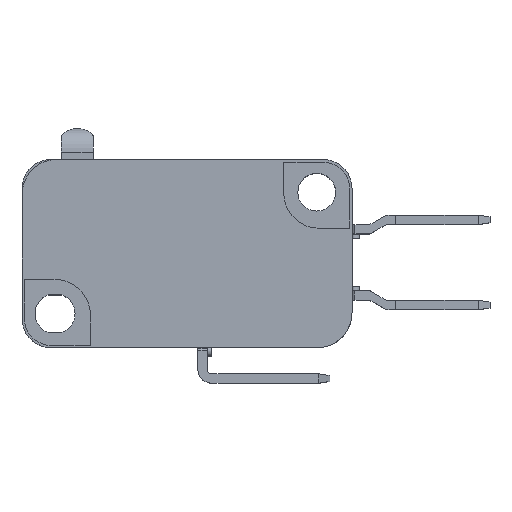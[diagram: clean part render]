
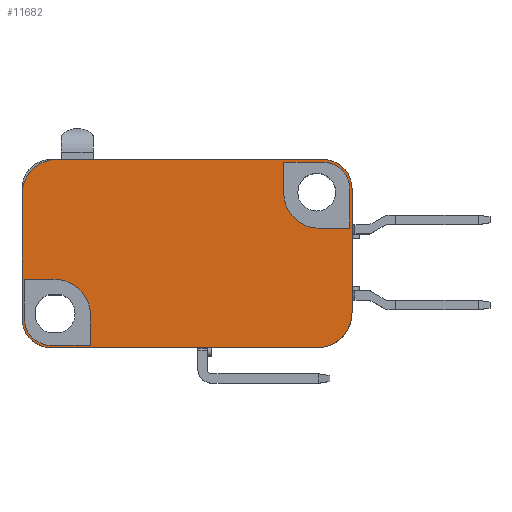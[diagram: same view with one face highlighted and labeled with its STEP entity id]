
A CAD part, top view. The second image highlights one B-rep face of the part: STEP entity #11682.
In plain terms, the highlighted planar face has unit normal (0, 0, 1).
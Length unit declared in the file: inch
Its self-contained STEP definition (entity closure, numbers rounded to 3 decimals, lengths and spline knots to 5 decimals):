
#764=DIRECTION('',(-1.,0.,0.));
#765=VECTOR('',#764,22.5);
#766=CARTESIAN_POINT('',(25.5,15.9,2.8));
#767=LINE('',#766,#765);
#2048=DIRECTION('',(0.,1.,0.));
#2049=VECTOR('',#2048,10.5);
#2050=CARTESIAN_POINT('',(28.,2.9,2.8));
#2051=LINE('',#2050,#2049);
#2409=DIRECTION('',(1.,0.,0.));
#2410=VECTOR('',#2409,22.5);
#2411=CARTESIAN_POINT('',(2.5,-0.1,2.8));
#2412=LINE('',#2411,#2410);
#3426=DIRECTION('',(0.,-1.,0.));
#3427=VECTOR('',#3426,10.5);
#3428=CARTESIAN_POINT('',(0.,12.9,2.8));
#3429=LINE('',#3428,#3427);
#3438=CARTESIAN_POINT('',(3.,12.9,2.8));
#3439=DIRECTION('',(0.,0.,-1.));
#3440=DIRECTION('',(-1.,0.,0.));
#3441=AXIS2_PLACEMENT_3D('',#3438,#3439,#3440);
#3443=CARTESIAN_POINT('',(25.5,13.4,2.8));
#3444=DIRECTION('',(0.,0.,-1.));
#3445=DIRECTION('',(0.,1.,0.));
#3446=AXIS2_PLACEMENT_3D('',#3443,#3444,#3445);
#3448=CARTESIAN_POINT('',(25.,2.9,2.8));
#3449=DIRECTION('',(0.,0.,-1.));
#3450=DIRECTION('',(1.,0.,0.));
#3451=AXIS2_PLACEMENT_3D('',#3448,#3449,#3450);
#3453=CARTESIAN_POINT('',(2.5,2.4,2.8));
#3454=DIRECTION('',(0.,0.,-1.));
#3455=DIRECTION('',(0.,-1.,0.));
#3456=AXIS2_PLACEMENT_3D('',#3453,#3454,#3455);
#3458=CARTESIAN_POINT('',(2.8,2.7,2.8));
#3459=DIRECTION('',(0.,0.,1.));
#3460=DIRECTION('',(1.,0.,0.));
#3461=AXIS2_PLACEMENT_3D('',#3458,#3459,#3460);
#3463=CARTESIAN_POINT('',(2.5,2.4,2.8));
#3464=DIRECTION('',(0.,0.,1.));
#3465=DIRECTION('',(-1.,0.,0.));
#3466=AXIS2_PLACEMENT_3D('',#3463,#3464,#3465);
#3468=CARTESIAN_POINT('',(25.2,13.05,2.8));
#3469=DIRECTION('',(0.,0.,1.));
#3470=DIRECTION('',(-1.,0.,0.));
#3471=AXIS2_PLACEMENT_3D('',#3468,#3469,#3470);
#3473=CARTESIAN_POINT('',(25.5,13.35,2.8));
#3474=DIRECTION('',(0.,0.,1.));
#3475=DIRECTION('',(1.,0.,0.));
#3476=AXIS2_PLACEMENT_3D('',#3473,#3474,#3475);
#3486=DIRECTION('',(0.,-1.,0.));
#3487=VECTOR('',#3486,2.6);
#3488=CARTESIAN_POINT('',(5.8,2.7,2.8));
#3489=LINE('',#3488,#3487);
#3519=DIRECTION('',(-1.,0.,0.));
#3520=VECTOR('',#3519,3.3);
#3521=CARTESIAN_POINT('',(5.8,0.1,2.8));
#3522=LINE('',#3521,#3520);
#3535=DIRECTION('',(0.,1.,0.));
#3536=VECTOR('',#3535,3.3);
#3537=CARTESIAN_POINT('',(0.2,2.4,2.8));
#3538=LINE('',#3537,#3536);
#3559=DIRECTION('',(1.,0.,0.));
#3560=VECTOR('',#3559,2.6);
#3561=CARTESIAN_POINT('',(0.2,5.7,2.8));
#3562=LINE('',#3561,#3560);
#3757=DIRECTION('',(0.,1.,0.));
#3758=VECTOR('',#3757,2.6);
#3759=CARTESIAN_POINT('',(22.2,13.05,2.8));
#3760=LINE('',#3759,#3758);
#3785=DIRECTION('',(1.,0.,0.));
#3786=VECTOR('',#3785,3.3);
#3787=CARTESIAN_POINT('',(22.2,15.65,2.8));
#3788=LINE('',#3787,#3786);
#3801=DIRECTION('',(0.,-1.,0.));
#3802=VECTOR('',#3801,3.3);
#3803=CARTESIAN_POINT('',(27.8,13.35,2.8));
#3804=LINE('',#3803,#3802);
#3825=DIRECTION('',(-1.,0.,0.));
#3826=VECTOR('',#3825,2.6);
#3827=CARTESIAN_POINT('',(27.8,10.05,2.8));
#3828=LINE('',#3827,#3826);
#5862=CARTESIAN_POINT('',(0.,12.9,2.8));
#5863=CARTESIAN_POINT('',(3.,15.9,2.8));
#5864=VERTEX_POINT('',#5862);
#5865=VERTEX_POINT('',#5863);
#5866=CARTESIAN_POINT('',(25.5,15.9,2.8));
#5867=VERTEX_POINT('',#5866);
#5868=CARTESIAN_POINT('',(28.,13.4,2.8));
#5869=VERTEX_POINT('',#5868);
#5870=CARTESIAN_POINT('',(28.,2.9,2.8));
#5871=VERTEX_POINT('',#5870);
#5872=CARTESIAN_POINT('',(25.,-0.1,2.8));
#5873=VERTEX_POINT('',#5872);
#5874=CARTESIAN_POINT('',(2.5,-0.1,2.8));
#5875=VERTEX_POINT('',#5874);
#5876=CARTESIAN_POINT('',(0.,2.4,2.8));
#5877=VERTEX_POINT('',#5876);
#5878=CARTESIAN_POINT('',(5.8,2.7,2.8));
#5879=CARTESIAN_POINT('',(5.8,0.1,2.8));
#5880=VERTEX_POINT('',#5878);
#5881=VERTEX_POINT('',#5879);
#5882=CARTESIAN_POINT('',(0.2,5.7,2.8));
#5883=CARTESIAN_POINT('',(2.8,5.7,2.8));
#5884=VERTEX_POINT('',#5882);
#5885=VERTEX_POINT('',#5883);
#5886=CARTESIAN_POINT('',(0.2,2.4,2.8));
#5887=VERTEX_POINT('',#5886);
#5888=CARTESIAN_POINT('',(2.5,0.1,2.8));
#5889=VERTEX_POINT('',#5888);
#5890=CARTESIAN_POINT('',(22.2,13.05,2.8));
#5891=CARTESIAN_POINT('',(22.2,15.65,2.8));
#5892=VERTEX_POINT('',#5890);
#5893=VERTEX_POINT('',#5891);
#5894=CARTESIAN_POINT('',(27.8,10.05,2.8));
#5895=CARTESIAN_POINT('',(25.2,10.05,2.8));
#5896=VERTEX_POINT('',#5894);
#5897=VERTEX_POINT('',#5895);
#5898=CARTESIAN_POINT('',(27.8,13.35,2.8));
#5899=VERTEX_POINT('',#5898);
#5900=CARTESIAN_POINT('',(25.5,15.65,2.8));
#5901=VERTEX_POINT('',#5900);
#11638=CARTESIAN_POINT('',(14.,7.9,2.8));
#11639=DIRECTION('',(0.,0.,1.));
#11640=DIRECTION('',(-1.,0.,0.));
#11641=AXIS2_PLACEMENT_3D('',#11638,#11639,#11640);
#11642=PLANE('',#11641);
#11643=ORIENTED_EDGE('',*,*,#8162,.T.);
#11644=ORIENTED_EDGE('',*,*,#8179,.F.);
#11646=ORIENTED_EDGE('',*,*,#11645,.T.);
#11647=ORIENTED_EDGE('',*,*,#9800,.F.);
#11648=ORIENTED_EDGE('',*,*,#9841,.T.);
#11649=ORIENTED_EDGE('',*,*,#10268,.F.);
#11650=ORIENTED_EDGE('',*,*,#11609,.T.);
#11651=ORIENTED_EDGE('',*,*,#11623,.F.);
#11652=EDGE_LOOP('',(#11643,#11644,#11646,#11647,#11648,#11649,#11650,#11651));
#11653=FACE_OUTER_BOUND('',#11652,.F.);
#11655=ORIENTED_EDGE('',*,*,#11654,.F.);
#11657=ORIENTED_EDGE('',*,*,#11656,.T.);
#11659=ORIENTED_EDGE('',*,*,#11658,.F.);
#11661=ORIENTED_EDGE('',*,*,#11660,.F.);
#11663=ORIENTED_EDGE('',*,*,#11662,.T.);
#11665=ORIENTED_EDGE('',*,*,#11664,.F.);
#11666=EDGE_LOOP('',(#11655,#11657,#11659,#11661,#11663,#11665));
#11667=FACE_BOUND('',#11666,.F.);
#11669=ORIENTED_EDGE('',*,*,#11668,.F.);
#11671=ORIENTED_EDGE('',*,*,#11670,.T.);
#11673=ORIENTED_EDGE('',*,*,#11672,.F.);
#11675=ORIENTED_EDGE('',*,*,#11674,.F.);
#11677=ORIENTED_EDGE('',*,*,#11676,.T.);
#11679=ORIENTED_EDGE('',*,*,#11678,.F.);
#11680=EDGE_LOOP('',(#11669,#11671,#11673,#11675,#11677,#11679));
#11681=FACE_BOUND('',#11680,.F.);
#11682=ADVANCED_FACE('',(#11653,#11667,#11681),#11642,.T.);
#3442=CIRCLE('',#3441,3.);
#3447=CIRCLE('',#3446,2.5);
#3452=CIRCLE('',#3451,3.);
#3457=CIRCLE('',#3456,2.5);
#3462=CIRCLE('',#3461,3.);
#3467=CIRCLE('',#3466,2.3);
#3472=CIRCLE('',#3471,3.);
#3477=CIRCLE('',#3476,2.3);
#8162=EDGE_CURVE('',#5864,#5865,#3442,.T.);
#8179=EDGE_CURVE('',#5867,#5865,#767,.T.);
#9800=EDGE_CURVE('',#5871,#5869,#2051,.T.);
#9841=EDGE_CURVE('',#5871,#5873,#3452,.T.);
#10268=EDGE_CURVE('',#5875,#5873,#2412,.T.);
#11609=EDGE_CURVE('',#5875,#5877,#3457,.T.);
#11623=EDGE_CURVE('',#5864,#5877,#3429,.T.);
#11645=EDGE_CURVE('',#5867,#5869,#3447,.T.);
#11654=EDGE_CURVE('',#5880,#5881,#3489,.T.);
#11656=EDGE_CURVE('',#5880,#5885,#3462,.T.);
#11658=EDGE_CURVE('',#5884,#5885,#3562,.T.);
#11660=EDGE_CURVE('',#5887,#5884,#3538,.T.);
#11662=EDGE_CURVE('',#5887,#5889,#3467,.T.);
#11664=EDGE_CURVE('',#5881,#5889,#3522,.T.);
#11668=EDGE_CURVE('',#5892,#5893,#3760,.T.);
#11670=EDGE_CURVE('',#5892,#5897,#3472,.T.);
#11672=EDGE_CURVE('',#5896,#5897,#3828,.T.);
#11674=EDGE_CURVE('',#5899,#5896,#3804,.T.);
#11676=EDGE_CURVE('',#5899,#5901,#3477,.T.);
#11678=EDGE_CURVE('',#5893,#5901,#3788,.T.);
